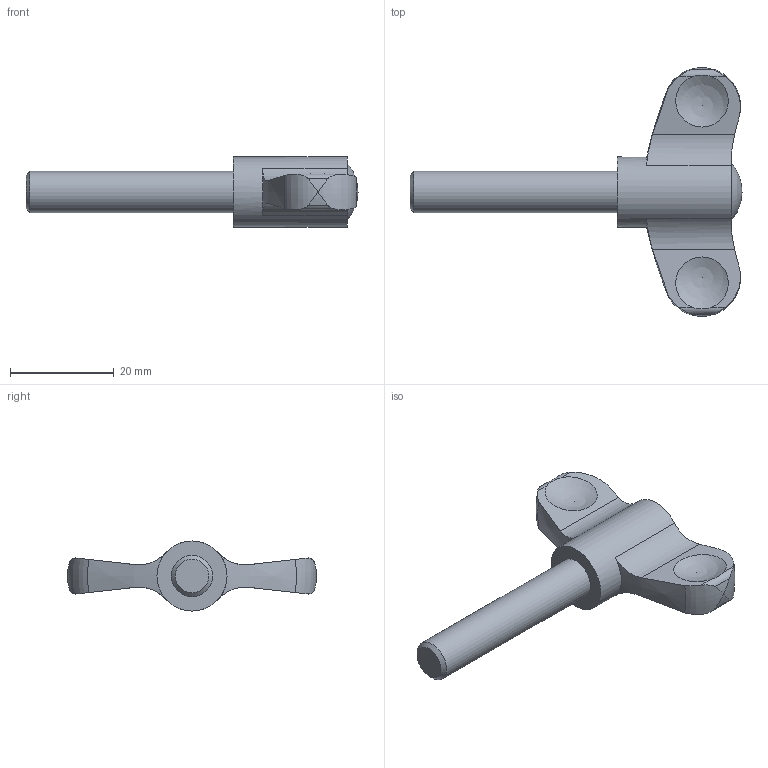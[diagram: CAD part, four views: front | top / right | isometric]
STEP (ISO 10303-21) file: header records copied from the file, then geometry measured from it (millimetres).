
FILE_DESCRIPTION( ( 'STEP AP203' ), '1' );
FILE_NAME( 'C:/Temp/Ganter_Step_05_03_2020/data/2_2/gn_633/Wing nut GN 633-48-M8-40-DGB.stp', '2020-03-05T12:20:49', ( 'License CC BY-ND 4.0' ), ( 'CADENAS' ), ' ', 'PARTsolutions', ' ' );
FILE_SCHEMA( ( 'CONFIG_CONTROL_DESIGN' ) );
Length unit declared in the file: millimetre
Products named in the file (1): _Wing nut GN 633-48-M8-40-DGB
Bounding box: 64 x 48 x 13.5 mm (x, y, z)
Volume: 7697.2 mm3; surface area: 3541.7 mm2
Topology: 1 solids, 1 shells, 33 faces, 102 edges, 68 vertices
Faces by surface type: cylinder 14, sphere 7, plane 7, bspline 2, torus 2, cone 1
Full cylindrical faces by diameter (mm): 8 x1, 13.5 x1
Entity records: 1450 total; most frequent: CARTESIAN_POINT 638, ORIENTED_EDGE 166, DIRECTION 138, EDGE_CURVE 83, VERTEX_POINT 63, AXIS2_PLACEMENT_3D 59, EDGE_LOOP 38, B_SPLINE_CURVE_WITH_KNOTS 36
